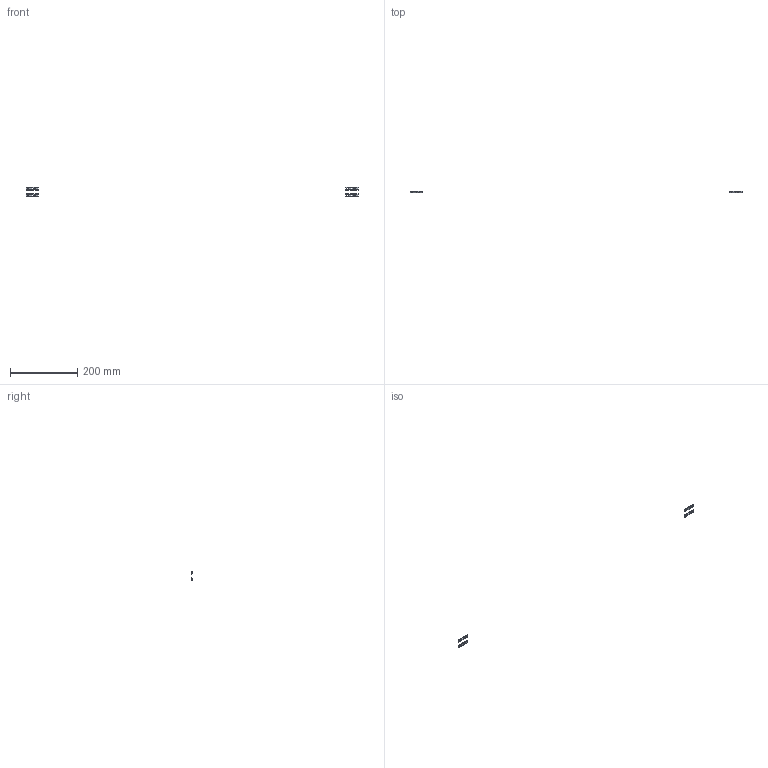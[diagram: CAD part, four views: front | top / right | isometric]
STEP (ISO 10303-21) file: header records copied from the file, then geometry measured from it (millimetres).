
FILE_DESCRIPTION(/* description */ (''),/* implementation_level */ '2;1');
FILE_NAME(/* name */ '10.optics-laser#10.4#HNTPZ5-5',/* time_stamp */ '2014-12-01T20:19:21+01:00',/* author */ (''),/* organization */ (''),/* preprocessor_version */ 'ST-DEVELOPER v14',/* originating_system */ '',/* authorisation */ '');
FILE_SCHEMA (('AUTOMOTIVE_DESIGN'));
Length unit declared in the file: millimetre
Products named in the file (2): Document; nut tslot, post, M5
Assembly tree (8 placements, depth 2):
  Document
    nut tslot, post, M5  x8
Bounding box: 987 x 3.8 x 28.3 mm (x, y, z)
Volume: 2520.1 mm3; surface area: 3356.1 mm2
Topology: 8 solids, 8 shells, 104 faces, 288 edges, 192 vertices
Faces by surface type: plane 88, bspline 16
Entity records: 1057 total; most frequent: CARTESIAN_POINT 467, B_SPLINE_CURVE_WITH_KNOTS 100, ORIENTED_EDGE 72, PCURVE 72, DEFINITIONAL_REPRESENTATION 72, SURFACE_CURVE 36, EDGE_CURVE 36, DIRECTION 32
